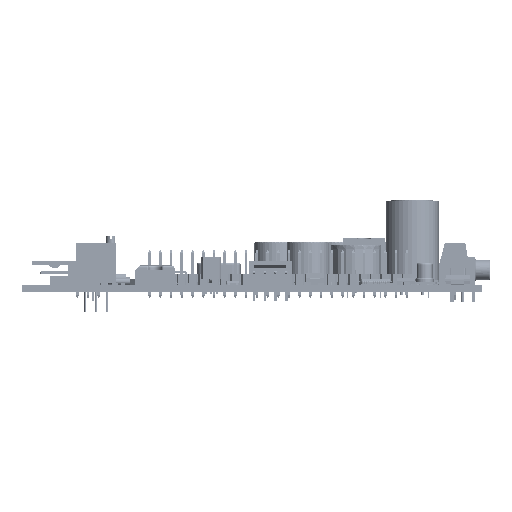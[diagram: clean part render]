
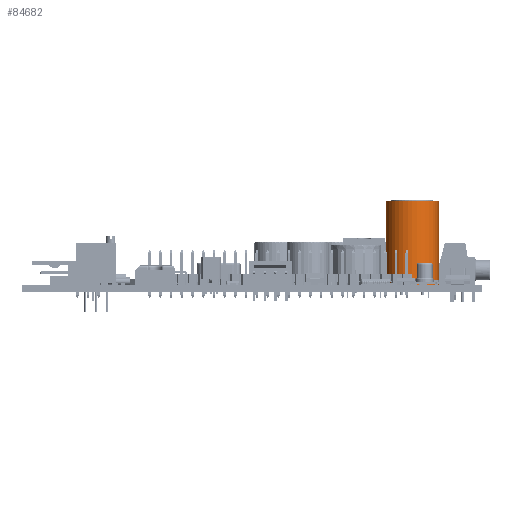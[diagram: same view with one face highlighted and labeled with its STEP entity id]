
A CAD part, left-side view. The second image highlights one B-rep face of the part: STEP entity #84682.
In plain terms, the highlighted cylindrical face has radius 6.3 mm (diameter 12.6 mm), a full revolution.
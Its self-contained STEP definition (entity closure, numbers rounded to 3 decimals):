
#84682 = ADVANCED_FACE('',(#84683),#84697,.T.);
#84683 = FACE_BOUND('',#84684,.T.);
#84684 = EDGE_LOOP('',(#84685,#84715,#84745,#84746));
#84685 = ORIENTED_EDGE('',*,*,#84686,.F.);
#84686 = EDGE_CURVE('',#84687,#84689,#84691,.T.);
#84687 = VERTEX_POINT('',#84688);
#84688 = CARTESIAN_POINT('',(6.3,0.,0.));
#84689 = VERTEX_POINT('',#84690);
#84690 = CARTESIAN_POINT('',(6.3,0.,20.));
#84691 = SEAM_CURVE('',#84692,(#84696,#84708),.PCURVE_S1.);
#84692 = LINE('',#84693,#84694);
#84693 = CARTESIAN_POINT('',(6.3,0.,0.));
#84694 = VECTOR('',#84695,1.);
#84695 = DIRECTION('',(0.,0.,1.));
#84696 = PCURVE('',#84697,#84702);
#84697 = CYLINDRICAL_SURFACE('',#84698,6.3);
#84698 = AXIS2_PLACEMENT_3D('',#84699,#84700,#84701);
#84699 = CARTESIAN_POINT('',(0.,0.,0.));
#84700 = DIRECTION('',(0.,0.,-1.));
#84701 = DIRECTION('',(1.,0.,0.));
#84702 = DEFINITIONAL_REPRESENTATION('',(#84703),#84707);
#84703 = LINE('',#84704,#84705);
#84704 = CARTESIAN_POINT('',(6.283,0.));
#84705 = VECTOR('',#84706,1.);
#84706 = DIRECTION('',(0.,-1.));
#84707 = ( GEOMETRIC_REPRESENTATION_CONTEXT(2) 
PARAMETRIC_REPRESENTATION_CONTEXT() REPRESENTATION_CONTEXT('2D SPACE',''
  ) );
#84708 = PCURVE('',#84697,#84709);
#84709 = DEFINITIONAL_REPRESENTATION('',(#84710),#84714);
#84710 = LINE('',#84711,#84712);
#84711 = CARTESIAN_POINT('',(0.,0.));
#84712 = VECTOR('',#84713,1.);
#84713 = DIRECTION('',(0.,-1.));
#84714 = ( GEOMETRIC_REPRESENTATION_CONTEXT(2) 
PARAMETRIC_REPRESENTATION_CONTEXT() REPRESENTATION_CONTEXT('2D SPACE',''
  ) );
#84715 = ORIENTED_EDGE('',*,*,#84716,.T.);
#84716 = EDGE_CURVE('',#84687,#84687,#84717,.T.);
#84717 = SURFACE_CURVE('',#84718,(#84723,#84729),.PCURVE_S1.);
#84718 = CIRCLE('',#84719,6.3);
#84719 = AXIS2_PLACEMENT_3D('',#84720,#84721,#84722);
#84720 = CARTESIAN_POINT('',(0.,0.,0.));
#84721 = DIRECTION('',(0.,0.,1.));
#84722 = DIRECTION('',(1.,0.,0.));
#84723 = PCURVE('',#84697,#84724);
#84724 = DEFINITIONAL_REPRESENTATION('',(#84725),#84728);
#84725 = B_SPLINE_CURVE_WITH_KNOTS('',1,(#84726,#84727),.UNSPECIFIED.,
  .F.,.F.,(2,2),(0.,6.283),.PIECEWISE_BEZIER_KNOTS.);
#84726 = CARTESIAN_POINT('',(6.283,0.));
#84727 = CARTESIAN_POINT('',(0.,0.));
#84728 = ( GEOMETRIC_REPRESENTATION_CONTEXT(2) 
PARAMETRIC_REPRESENTATION_CONTEXT() REPRESENTATION_CONTEXT('2D SPACE',''
  ) );
#84729 = PCURVE('',#84730,#84735);
#84730 = PLANE('',#84731);
#84731 = AXIS2_PLACEMENT_3D('',#84732,#84733,#84734);
#84732 = CARTESIAN_POINT('',(6.3,0.,0.));
#84733 = DIRECTION('',(0.,0.,-1.));
#84734 = DIRECTION('',(-1.,0.,0.));
#84735 = DEFINITIONAL_REPRESENTATION('',(#84736),#84744);
#84736 = ( BOUNDED_CURVE() B_SPLINE_CURVE(2,(#84737,#84738,#84739,#84740
    ,#84741,#84742,#84743),.UNSPECIFIED.,.F.,.F.) 
B_SPLINE_CURVE_WITH_KNOTS((1,2,2,2,2,1),(-2.094,0.,
    2.094,4.189,6.283,8.378),
.UNSPECIFIED.) CURVE() GEOMETRIC_REPRESENTATION_ITEM() 
RATIONAL_B_SPLINE_CURVE((1.,0.5,1.,0.5,1.,0.5,1.)) REPRESENTATION_ITEM(
  '') );
#84737 = CARTESIAN_POINT('',(0.,0.));
#84738 = CARTESIAN_POINT('',(0.,10.912));
#84739 = CARTESIAN_POINT('',(9.45,5.456));
#84740 = CARTESIAN_POINT('',(18.9,0.));
#84741 = CARTESIAN_POINT('',(9.45,-5.456));
#84742 = CARTESIAN_POINT('',(0.,-10.912));
#84743 = CARTESIAN_POINT('',(0.,0.));
#84744 = ( GEOMETRIC_REPRESENTATION_CONTEXT(2) 
PARAMETRIC_REPRESENTATION_CONTEXT() REPRESENTATION_CONTEXT('2D SPACE',''
  ) );
#84745 = ORIENTED_EDGE('',*,*,#84686,.T.);
#84746 = ORIENTED_EDGE('',*,*,#84747,.F.);
#84747 = EDGE_CURVE('',#84689,#84689,#84748,.T.);
#84748 = SURFACE_CURVE('',#84749,(#84754,#84760),.PCURVE_S1.);
#84749 = CIRCLE('',#84750,6.3);
#84750 = AXIS2_PLACEMENT_3D('',#84751,#84752,#84753);
#84751 = CARTESIAN_POINT('',(0.,0.,20.));
#84752 = DIRECTION('',(0.,0.,1.));
#84753 = DIRECTION('',(1.,0.,0.));
#84754 = PCURVE('',#84697,#84755);
#84755 = DEFINITIONAL_REPRESENTATION('',(#84756),#84759);
#84756 = B_SPLINE_CURVE_WITH_KNOTS('',1,(#84757,#84758),.UNSPECIFIED.,
  .F.,.F.,(2,2),(0.,6.283),.PIECEWISE_BEZIER_KNOTS.);
#84757 = CARTESIAN_POINT('',(6.283,-20.));
#84758 = CARTESIAN_POINT('',(0.,-20.));
#84759 = ( GEOMETRIC_REPRESENTATION_CONTEXT(2) 
PARAMETRIC_REPRESENTATION_CONTEXT() REPRESENTATION_CONTEXT('2D SPACE',''
  ) );
#84760 = PCURVE('',#84761,#84766);
#84761 = PLANE('',#84762);
#84762 = AXIS2_PLACEMENT_3D('',#84763,#84764,#84765);
#84763 = CARTESIAN_POINT('',(6.3,0.,20.));
#84764 = DIRECTION('',(0.,0.,-1.));
#84765 = DIRECTION('',(-1.,0.,0.));
#84766 = DEFINITIONAL_REPRESENTATION('',(#84767),#84775);
#84767 = ( BOUNDED_CURVE() B_SPLINE_CURVE(2,(#84768,#84769,#84770,#84771
    ,#84772,#84773,#84774),.UNSPECIFIED.,.F.,.F.) 
B_SPLINE_CURVE_WITH_KNOTS((1,2,2,2,2,1),(-2.094,0.,
    2.094,4.189,6.283,8.378),
.UNSPECIFIED.) CURVE() GEOMETRIC_REPRESENTATION_ITEM() 
RATIONAL_B_SPLINE_CURVE((1.,0.5,1.,0.5,1.,0.5,1.)) REPRESENTATION_ITEM(
  '') );
#84768 = CARTESIAN_POINT('',(0.,0.));
#84769 = CARTESIAN_POINT('',(0.,10.912));
#84770 = CARTESIAN_POINT('',(9.45,5.456));
#84771 = CARTESIAN_POINT('',(18.9,0.));
#84772 = CARTESIAN_POINT('',(9.45,-5.456));
#84773 = CARTESIAN_POINT('',(0.,-10.912));
#84774 = CARTESIAN_POINT('',(0.,0.));
#84775 = ( GEOMETRIC_REPRESENTATION_CONTEXT(2) 
PARAMETRIC_REPRESENTATION_CONTEXT() REPRESENTATION_CONTEXT('2D SPACE',''
  ) );
